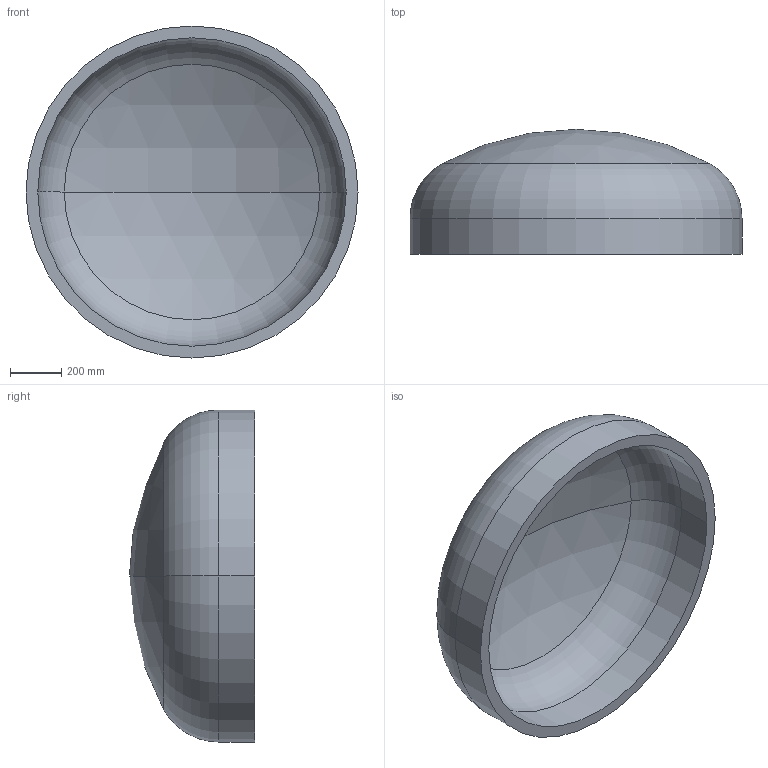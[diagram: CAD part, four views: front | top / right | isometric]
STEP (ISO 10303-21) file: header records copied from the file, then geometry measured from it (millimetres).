
FILE_DESCRIPTION (( 'STEP AP203' ), '1' );
FILE_NAME ('DIN 28013 Korbbogenform_-_Boden DIN 28013 - 1300 x 140 - I - s=46.step', '2016-07-01T09:53:15', ( '' ), ( '' ), 'SwSTEP 2.0', 'SolidWorks 2013', '' );
FILE_SCHEMA (( 'CONFIG_CONTROL_DESIGN' ));
Length unit declared in the file: millimetre
Products named in the file (1): DIN 28013 Korbbogenform_-_Boden DIN 28013 - 1300 x 140 - I - s=46
Bounding box: 1300 x 489.53 x 1300 mm (x, y, z)
Volume: 106113690.1 mm3; surface area: 4799288.9 mm2
Topology: 1 solids, 1 shells, 13 faces, 24 edges, 14 vertices
Faces by surface type: torus 4, cylinder 4, sphere 4, plane 1
Entity records: 407 total; most frequent: DIRECTION 72, CARTESIAN_POINT 52, ORIENTED_EDGE 48, AXIS2_PLACEMENT_3D 34, EDGE_CURVE 24, CIRCLE 20, VERTEX_POINT 14, EDGE_LOOP 14
